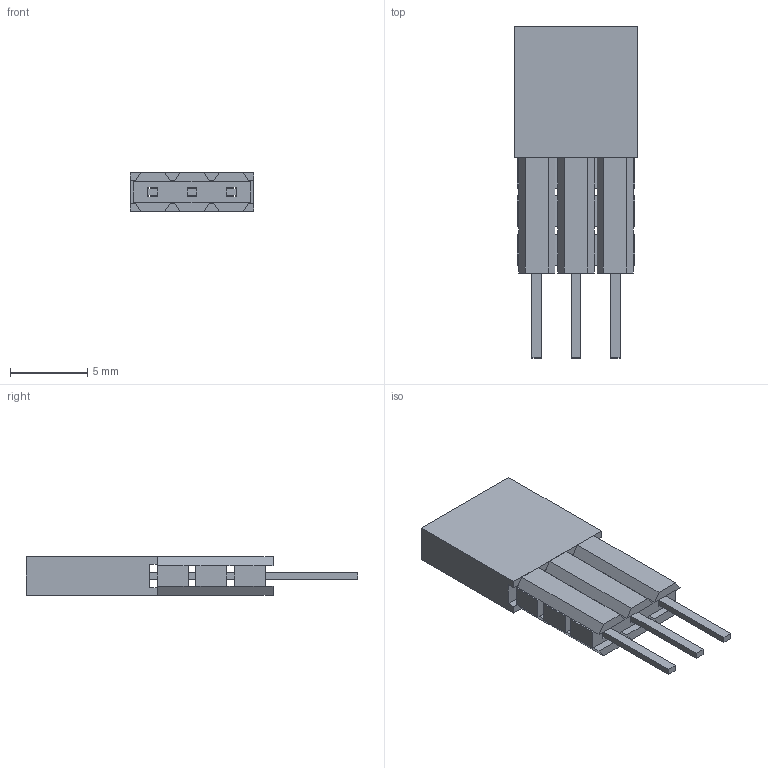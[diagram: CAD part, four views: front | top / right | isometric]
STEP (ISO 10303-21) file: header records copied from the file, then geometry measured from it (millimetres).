
FILE_DESCRIPTION(/* description */ (''),/* implementation_level */ '2;1');
FILE_NAME(/* name */ 'PM254-1-03-Z-C16.0-XX-3LP(L21.5)(2.54 单排 排母 直针 加3层塑胶-HCTL).stp',/* time_stamp */ '2026-10-24T16:02:35+08:00',/* author */ (''),/* organization */ (''),/* preprocessor_version */ 'ST-DEVELOPER v16',/* originating_system */ 'SIEMENS PLM Software NX 10.0',/* authorisation */ '');
FILE_SCHEMA (('AUTOMOTIVE_DESIGN { 1 0 10303 214 3 1 1 1 }'));
Length unit declared in the file: millimetre
Products named in the file (1): PM254-1-N-Z-C16.0-XX-3LP(L21.5)(2.54 单排 排母 
直针 加3层塑胶-HCTL)
Bounding box: 8.02 x 21.5 x 2.5 mm (x, y, z)
Volume: 271 mm3; surface area: 665.8 mm2
Topology: 2 solids, 2 shells, 166 faces, 480 edges, 292 vertices
Faces by surface type: plane 166
Entity records: 5361 total; most frequent: ORIENTED_EDGE 960, CARTESIAN_POINT 939, DIRECTION 814, EDGE_CURVE 480, LINE 480, VECTOR 480, VERTEX_POINT 292, EDGE_LOOP 190
